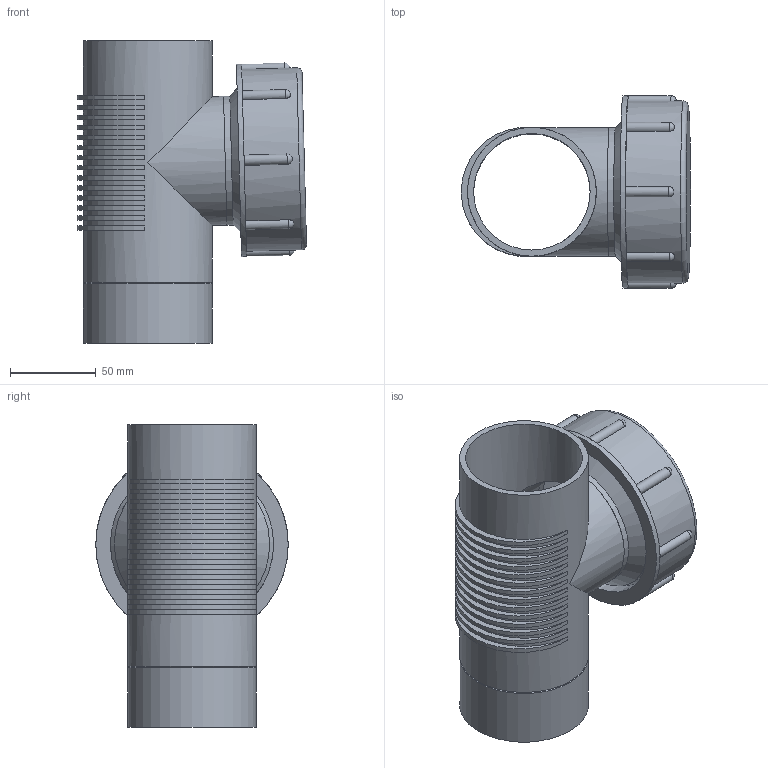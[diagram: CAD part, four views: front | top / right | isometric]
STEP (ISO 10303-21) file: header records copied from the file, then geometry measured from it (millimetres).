
FILE_DESCRIPTION(/* description */ (''),/* implementation_level */ '2;1');
FILE_NAME(/* name */ 'Z:\Geberit\Export\NewStep\307333.stp',/* time_stamp */ '2014-04-01T20:04:55+02:00',/* author */ ('ML'),/* organization */ (''),/* preprocessor_version */ 'ST-DEVELOPER v15.2',/* originating_system */ 'Autodesk Inventor 2014',/* authorisation */ '');
FILE_SCHEMA (('AUTOMOTIVE_DESIGN { 1 0 10303 214 3 1 1 }'));
Length unit declared in the file: millimetre
Products named in the file (4): 862050; 853716; 853894; 307333
Bounding box: 133.26 x 112 x 176 mm (x, y, z)
Volume: 338791.1 mm3; surface area: 156818.4 mm2
Topology: 3 solids, 3 shells, 95 faces, 263 edges, 166 vertices
Faces by surface type: plane 43, cylinder 36, sphere 8, cone 7, torus 1
Full cylindrical faces by diameter (mm): 67.8 x2, 69 x1, 75 x4, 76 x1, 90.4 x2, 95 x2, 106 x1, 112 x1
Entity records: 2877 total; most frequent: CARTESIAN_POINT 598, DIRECTION 500, ORIENTED_EDGE 372, AXIS2_PLACEMENT_3D 228, EDGE_CURVE 186, EDGE_LOOP 138, VERTEX_POINT 134, CIRCLE 122
